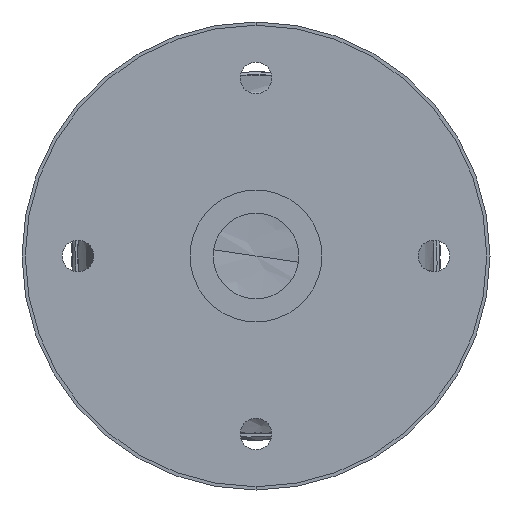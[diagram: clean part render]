
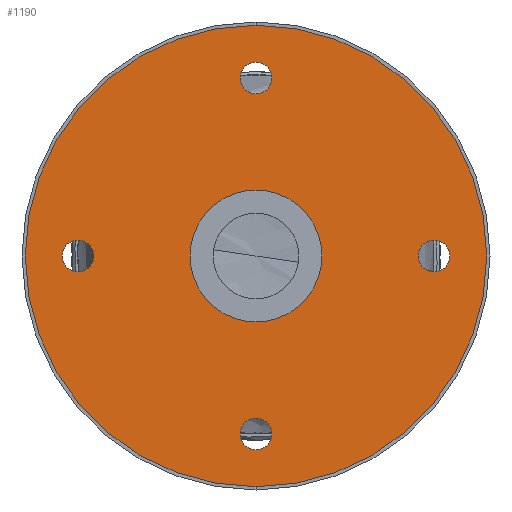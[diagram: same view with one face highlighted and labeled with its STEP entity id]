
A CAD part, front view. The second image highlights one B-rep face of the part: STEP entity #1190.
In plain terms, the highlighted planar face has unit normal (0, -1, 0).
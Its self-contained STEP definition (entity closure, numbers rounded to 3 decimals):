
#1039 = VERTEX_POINT ( 'NONE', #6690 ) ;
#1077 = VERTEX_POINT ( 'NONE', #6835 ) ;
#1078 = VERTEX_POINT ( 'NONE', #6812 ) ;
#1080 = EDGE_CURVE ( 'NONE', #1099, #1097, #6830, .T. ) ;
#1090 = VERTEX_POINT ( 'NONE', #6851 ) ;
#1091 = EDGE_CURVE ( 'NONE', #1090, #1039, #6900, .T. ) ;
#1097 = VERTEX_POINT ( 'NONE', #6894 ) ;
#1099 = VERTEX_POINT ( 'NONE', #6901 ) ;
#1108 = EDGE_CURVE ( 'NONE', #1129, #1141, #6944, .T. ) ;
#1110 = VERTEX_POINT ( 'NONE', #6946 ) ;
#1116 = VERTEX_POINT ( 'NONE', #6979 ) ;
#1121 = EDGE_CURVE ( 'NONE', #1135, #1132, #6987, .T. ) ;
#1129 = VERTEX_POINT ( 'NONE', #6959 ) ;
#1132 = VERTEX_POINT ( 'NONE', #6990 ) ;
#1134 = EDGE_CURVE ( 'NONE', #1078, #1077, #7009, .T. ) ;
#1135 = VERTEX_POINT ( 'NONE', #7041 ) ;
#1141 = VERTEX_POINT ( 'NONE', #7036 ) ;
#1144 = EDGE_CURVE ( 'NONE', #1132, #1135, #7022, .T. ) ;
#1158 = EDGE_CURVE ( 'NONE', #1110, #1116, #7059, .T. ) ;
#1166 = EDGE_CURVE ( 'NONE', #1141, #1129, #7071, .T. ) ;
#1170 = EDGE_CURVE ( 'NONE', #1116, #1110, #7116, .T. ) ;
#1179 = EDGE_LOOP ( 'NONE', ( #1183, #1220 ) ) ;
#1183 = ORIENTED_EDGE ( 'NONE', *, *, #1170, .T. ) ;
#1185 = ORIENTED_EDGE ( 'NONE', *, *, #1166, .T. ) ;
#1190 = ADVANCED_FACE ( 'NONE', ( #7141, #7135, #7181, #7180, #7130, #7184 ), #7103, .F. ) ;
#1191 = EDGE_CURVE ( 'NONE', #1039, #1090, #7171, .T. ) ;
#1192 = ORIENTED_EDGE ( 'NONE', *, *, #1080, .T. ) ;
#1193 = EDGE_LOOP ( 'NONE', ( #1195, #1196 ) ) ;
#1194 = ORIENTED_EDGE ( 'NONE', *, *, #1121, .T. ) ;
#1195 = ORIENTED_EDGE ( 'NONE', *, *, #1091, .T. ) ;
#1196 = ORIENTED_EDGE ( 'NONE', *, *, #1191, .T. ) ;
#1197 = EDGE_LOOP ( 'NONE', ( #1192, #1201 ) ) ;
#1199 = EDGE_CURVE ( 'NONE', #1077, #1078, #7199, .T. ) ;
#1201 = ORIENTED_EDGE ( 'NONE', *, *, #1204, .T. ) ;
#1204 = EDGE_CURVE ( 'NONE', #1097, #1099, #7227, .T. ) ;
#1220 = ORIENTED_EDGE ( 'NONE', *, *, #1158, .T. ) ;
#1234 = EDGE_LOOP ( 'NONE', ( #1235, #1237 ) ) ;
#1235 = ORIENTED_EDGE ( 'NONE', *, *, #1199, .F. ) ;
#1236 = EDGE_LOOP ( 'NONE', ( #1194, #1240 ) ) ;
#1237 = ORIENTED_EDGE ( 'NONE', *, *, #1134, .F. ) ;
#1239 = EDGE_LOOP ( 'NONE', ( #1243, #1185 ) ) ;
#1240 = ORIENTED_EDGE ( 'NONE', *, *, #1144, .T. ) ;
#1243 = ORIENTED_EDGE ( 'NONE', *, *, #1108, .T. ) ;
#6690 = CARTESIAN_POINT ( 'NONE',  ( 0., -2., 10. ) ) ;
#6715 = DIRECTION ( 'NONE',  ( 0., 0., 1. ) ) ;
#6812 = CARTESIAN_POINT ( 'NONE',  ( 0., -2., 35. ) ) ;
#6823 = DIRECTION ( 'NONE',  ( 0., 0., 1. ) ) ;
#6824 = DIRECTION ( 'NONE',  ( 0., 1., 0. ) ) ;
#6825 = CARTESIAN_POINT ( 'NONE',  ( 0., -2., -27. ) ) ;
#6830 = CIRCLE ( 'NONE', #6841, 2.4 ) ;
#6835 = CARTESIAN_POINT ( 'NONE',  ( 0., -2., -35. ) ) ;
#6841 = AXIS2_PLACEMENT_3D ( 'NONE', #6825, #6824, #6823 ) ;
#6851 = CARTESIAN_POINT ( 'NONE',  ( 0., -2., -10. ) ) ;
#6894 = CARTESIAN_POINT ( 'NONE',  ( 0., -2., -24.6 ) ) ;
#6896 = DIRECTION ( 'NONE',  ( 0., 0., 1. ) ) ;
#6897 = DIRECTION ( 'NONE',  ( 0., 1., 0. ) ) ;
#6898 = CARTESIAN_POINT ( 'NONE',  ( 0., -2., 0. ) ) ;
#6899 = AXIS2_PLACEMENT_3D ( 'NONE', #6898, #6897, #6896 ) ;
#6900 = CIRCLE ( 'NONE', #6899, 10. ) ;
#6901 = CARTESIAN_POINT ( 'NONE',  ( 0., -2., -29.4 ) ) ;
#6916 = CARTESIAN_POINT ( 'NONE',  ( 0., -2., 27. ) ) ;
#6939 = DIRECTION ( 'NONE',  ( 0., 0., 1. ) ) ;
#6940 = DIRECTION ( 'NONE',  ( 0., 1., 0. ) ) ;
#6941 = AXIS2_PLACEMENT_3D ( 'NONE', #6916, #6940, #6939 ) ;
#6944 = CIRCLE ( 'NONE', #6941, 2.4 ) ;
#6946 = CARTESIAN_POINT ( 'NONE',  ( 27., -2., 2.4 ) ) ;
#6959 = CARTESIAN_POINT ( 'NONE',  ( 0., -2., 24.6 ) ) ;
#6965 = DIRECTION ( 'NONE',  ( 0., 0., 1. ) ) ;
#6968 = CARTESIAN_POINT ( 'NONE',  ( -27., -2., 0. ) ) ;
#6973 = DIRECTION ( 'NONE',  ( 0., 1., 0. ) ) ;
#6978 = AXIS2_PLACEMENT_3D ( 'NONE', #6968, #6973, #6965 ) ;
#6979 = CARTESIAN_POINT ( 'NONE',  ( 27., -2., -2.4 ) ) ;
#6987 = CIRCLE ( 'NONE', #6978, 2.4 ) ;
#6990 = CARTESIAN_POINT ( 'NONE',  ( -27., -2., 2.4 ) ) ;
#6993 = AXIS2_PLACEMENT_3D ( 'NONE', #7040, #7039, #7038 ) ;
#6996 = DIRECTION ( 'NONE',  ( 0., 1., 0. ) ) ;
#7009 = CIRCLE ( 'NONE', #6993, 35. ) ;
#7022 = CIRCLE ( 'NONE', #7062, 2.4 ) ;
#7036 = CARTESIAN_POINT ( 'NONE',  ( 0., -2., 29.4 ) ) ;
#7038 = DIRECTION ( 'NONE',  ( 0., 0., 1. ) ) ;
#7039 = DIRECTION ( 'NONE',  ( 0., 1., 0. ) ) ;
#7040 = CARTESIAN_POINT ( 'NONE',  ( 0., -2., 0. ) ) ;
#7041 = CARTESIAN_POINT ( 'NONE',  ( -27., -2., -2.4 ) ) ;
#7048 = DIRECTION ( 'NONE',  ( 0., 0., 1. ) ) ;
#7049 = DIRECTION ( 'NONE',  ( 0., 1., 0. ) ) ;
#7050 = CARTESIAN_POINT ( 'NONE',  ( 27., -2., 0. ) ) ;
#7051 = AXIS2_PLACEMENT_3D ( 'NONE', #7050, #7049, #7048 ) ;
#7052 = AXIS2_PLACEMENT_3D ( 'NONE', #7069, #7120, #7119 ) ;
#7059 = CIRCLE ( 'NONE', #7051, 2.4 ) ;
#7061 = DIRECTION ( 'NONE',  ( 0., 0., 1. ) ) ;
#7062 = AXIS2_PLACEMENT_3D ( 'NONE', #7063, #6996, #7061 ) ;
#7063 = CARTESIAN_POINT ( 'NONE',  ( -27., -2., 0. ) ) ;
#7069 = CARTESIAN_POINT ( 'NONE',  ( 0., -2., 27. ) ) ;
#7071 = CIRCLE ( 'NONE', #7052, 2.4 ) ;
#7103 = PLANE ( 'NONE',  #7178 ) ;
#7106 = DIRECTION ( 'NONE',  ( 0., 0., 1. ) ) ;
#7107 = DIRECTION ( 'NONE',  ( 0., 1., 0. ) ) ;
#7114 = CARTESIAN_POINT ( 'NONE',  ( 27., -2., 0. ) ) ;
#7116 = CIRCLE ( 'NONE', #7118, 2.4 ) ;
#7118 = AXIS2_PLACEMENT_3D ( 'NONE', #7114, #7107, #7106 ) ;
#7119 = DIRECTION ( 'NONE',  ( 0., 0., 1. ) ) ;
#7120 = DIRECTION ( 'NONE',  ( 0., 1., 0. ) ) ;
#7130 = FACE_BOUND ( 'NONE', #1239, .T. ) ;
#7135 = FACE_BOUND ( 'NONE', #1193, .T. ) ;
#7141 = FACE_BOUND ( 'NONE', #1197, .T. ) ;
#7151 = DIRECTION ( 'NONE',  ( 0., 1., 0. ) ) ;
#7152 = CARTESIAN_POINT ( 'NONE',  ( 0., -2., 0. ) ) ;
#7155 = DIRECTION ( 'NONE',  ( 0., 0., 1. ) ) ;
#7156 = DIRECTION ( 'NONE',  ( 0., 1., 0. ) ) ;
#7157 = CARTESIAN_POINT ( 'NONE',  ( 0., -2., 0. ) ) ;
#7170 = AXIS2_PLACEMENT_3D ( 'NONE', #7157, #7156, #7155 ) ;
#7171 = CIRCLE ( 'NONE', #7170, 10. ) ;
#7178 = AXIS2_PLACEMENT_3D ( 'NONE', #7152, #7151, #6715 ) ;
#7180 = FACE_BOUND ( 'NONE', #1236, .T. ) ;
#7181 = FACE_OUTER_BOUND ( 'NONE', #1234, .T. ) ;
#7184 = FACE_BOUND ( 'NONE', #1179, .T. ) ;
#7199 = CIRCLE ( 'NONE', #7231, 35. ) ;
#7221 = DIRECTION ( 'NONE',  ( 0., 0., 1. ) ) ;
#7222 = DIRECTION ( 'NONE',  ( 0., 1., 0. ) ) ;
#7225 = CARTESIAN_POINT ( 'NONE',  ( 0., -2., -27. ) ) ;
#7226 = AXIS2_PLACEMENT_3D ( 'NONE', #7225, #7222, #7221 ) ;
#7227 = CIRCLE ( 'NONE', #7226, 2.4 ) ;
#7228 = DIRECTION ( 'NONE',  ( 0., 0., 1. ) ) ;
#7229 = DIRECTION ( 'NONE',  ( 0., 1., 0. ) ) ;
#7230 = CARTESIAN_POINT ( 'NONE',  ( 0., -2., 0. ) ) ;
#7231 = AXIS2_PLACEMENT_3D ( 'NONE', #7230, #7229, #7228 ) ;
